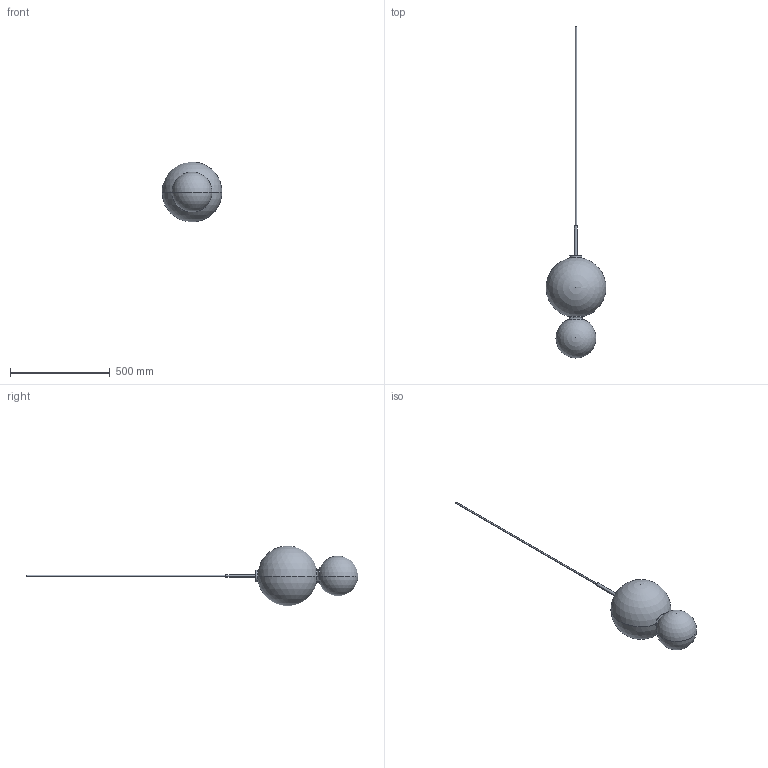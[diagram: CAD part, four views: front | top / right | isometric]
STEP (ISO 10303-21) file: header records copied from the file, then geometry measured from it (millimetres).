
FILE_DESCRIPTION (( 'STEP AP214' ), '1' );
FILE_NAME ('Colgante_bolas.STEP', '2023-10-17T09:51:39', ( '' ), ( '' ), 'SwSTEP 2.0', 'SolidWorks 2018', '' );
FILE_SCHEMA (( 'AUTOMOTIVE_DESIGN' ));
Length unit declared in the file: millimetre
Products named in the file (2): Colgante_bolas
Bounding box: 299.82 x 1660.61 x 300 mm (x, y, z)
Volume: 1380911.4 mm3; surface area: 863561.9 mm2
Topology: 7 solids, 7 shells, 89 faces, 232 edges, 148 vertices
Faces by surface type: cylinder 44, sphere 18, plane 15, torus 6, bspline 6
Entity records: 4641 total; most frequent: CARTESIAN_POINT 2571, DIRECTION 430, ORIENTED_EDGE 414, EDGE_CURVE 207, AXIS2_PLACEMENT_3D 188, VERTEX_POINT 133, CIRCLE 103, EDGE_LOOP 92
